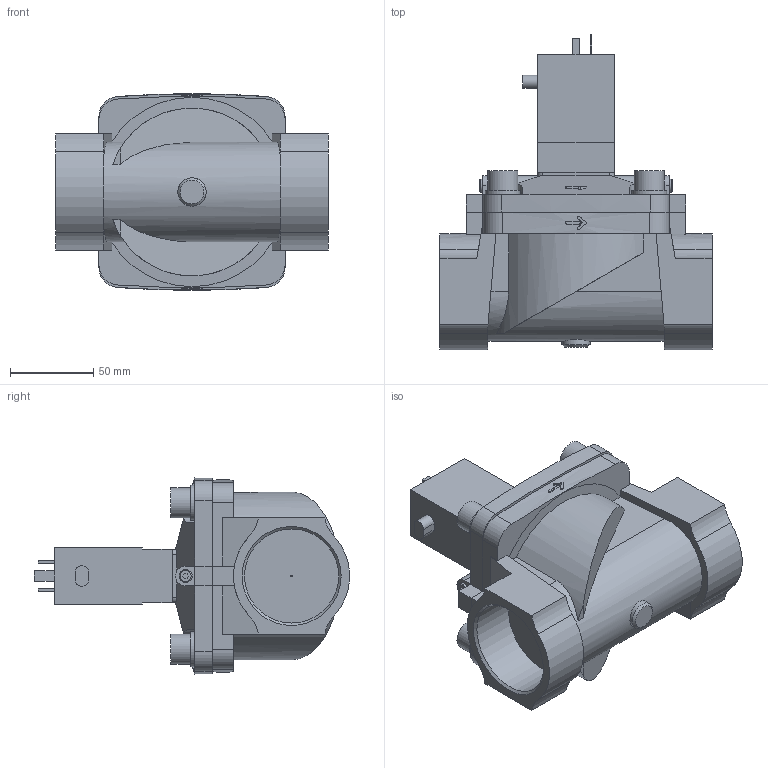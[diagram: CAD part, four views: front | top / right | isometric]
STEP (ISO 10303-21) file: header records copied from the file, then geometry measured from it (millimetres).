
FILE_DESCRIPTION( ( 'STEP AP214' ), '1' );
FILE_NAME( 'p:/temp/worker_11/temp/app_54_02018110103022169631037192d056f_000000_00_00_000000/format_0/5282-134478-Servo-assisted_2_2_way_diaphragm_valve.stp', '2018-11-01T02:02:22', ( '' ), ( '' ), ' ', 'PARTsolutions', ' ' );
FILE_SCHEMA( ( 'AUTOMOTIVE_DESIGN { 1 0 10303 214 1 1 1 1 }' ) );
Length unit declared in the file: millimetre
Products named in the file (4): 5282-134478-Servo-assisted 2/2 way diaphragm valve; HI_5282d-50MSOO2-2/2-Wege-Magnetventil_Deckel; HI_5282g-8950MS -2/2-Wege-Magnetventil_Gehaeuse; HI_0331-MS-3/2-way-Solenoid-Valve or 4-way-combination
Assembly tree (3 placements, depth 2):
  5282-134478-Servo-assisted 2/2 way diaphragm valve
    HI_5282d-50MSOO2-2/2-Wege-Magnetventil_Deckel
    HI_5282g-8950MS -2/2-Wege-Magnetventil_Gehaeuse
    HI_0331-MS-3/2-way-Solenoid-Valve or 4-way-combination
Bounding box: 164 x 189.67 x 118.3 mm (x, y, z)
Volume: 1057867.1 mm3; surface area: 130093.2 mm2
Topology: 3 solids, 3 shells, 247 faces, 638 edges, 419 vertices
Faces by surface type: plane 169, cylinder 71, cone 7
Full cylindrical faces by diameter (mm): 1 x1, 7.8 x2, 17 x1, 18 x4, 21.1 x4, 56.656 x2
Entity records: 9648 total; most frequent: CARTESIAN_POINT 1550, DIRECTION 1272, ORIENTED_EDGE 1226, EDGE_CURVE 613, AXIS2_PLACEMENT_3D 431, VERTEX_POINT 413, LINE 410, VECTOR 410
